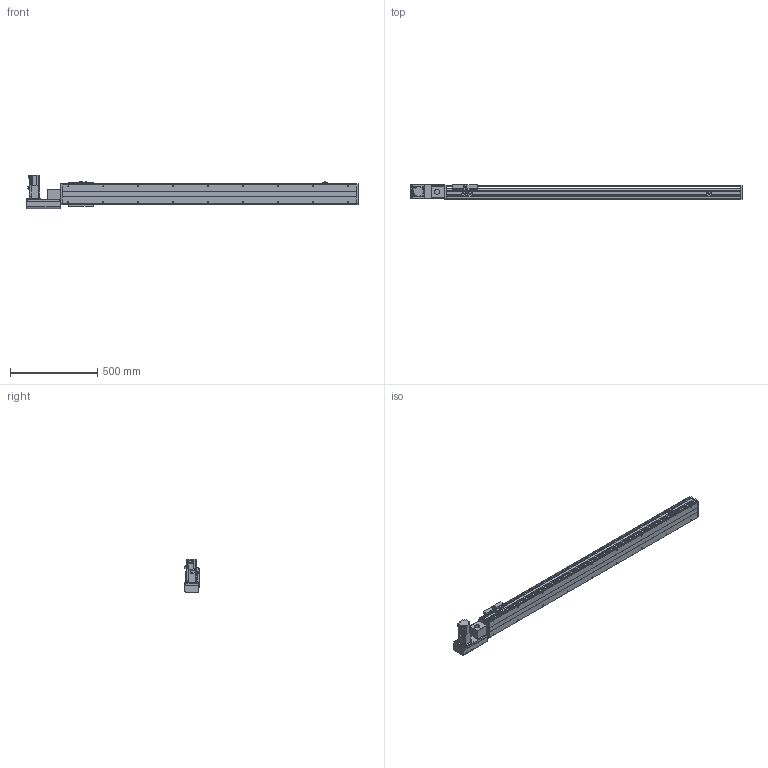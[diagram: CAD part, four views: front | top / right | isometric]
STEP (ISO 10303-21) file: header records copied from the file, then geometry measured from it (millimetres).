
FILE_DESCRIPTION( ( 'STEP AP214' ), '1' );
FILE_NAME( 'x:/temp/worker_26/temp/exporttempdir_3776_65_dyV5P/format_0/PBS120-P40-S1400-L-T40-C1-N(0).stp', '2022-06-05T00:26:18', ( 'License CC BY-ND 4.0' ), ( 'CADENAS' ), ' ', 'PARTsolutions', ' ' );
FILE_SCHEMA( ( 'AUTOMOTIVE_DESIGN { 1 0 10303 214 1 1 1 1 }' ) );
Length unit declared in the file: millimetre
Products named in the file (7): PBS120-P40-S1400-L-T40-C1-N(0); _PBS120-S1400()_body; _PBS120T-L_motors; _T40-p1; _PBS120_sliser; _PBS120_plant; _PBS120_sensor
Assembly tree (8 placements, depth 2):
  PBS120-P40-S1400-L-T40-C1-N(0)
    _PBS120-S1400()_body
    _PBS120T-L_motors
    _T40-p1
    _PBS120_sliser
    _PBS120_plant
    _PBS120_sensor  x3
Bounding box: 1901 x 83 x 189.7 mm (x, y, z)
Volume: 7263382.4 mm3; surface area: 1450920.6 mm2
Topology: 8 solids, 8 shells, 834 faces, 2166 edges, 1393 vertices
Faces by surface type: plane 551, cylinder 231, cone 50, torus 2
Full cylindrical faces by diameter (mm): 2.459 x6, 3.242 x4, 4 x2, 4.134 x4, 4.5 x10, 4.917 x22, 5.5 x11, 6 x2, 6.6 x1, 7 x2, 8.5 x4, 9 x4, 12 x1, 14 x1, 30 x2, 40 x1, 50 x2
Entity records: 27492 total; most frequent: DIRECTION 3764, CARTESIAN_POINT 3695, ORIENTED_EDGE 3514, EDGE_CURVE 1757, AXIS2_PLACEMENT_3D 1268, LINE 1228, VECTOR 1228, VERTEX_POINT 1199
